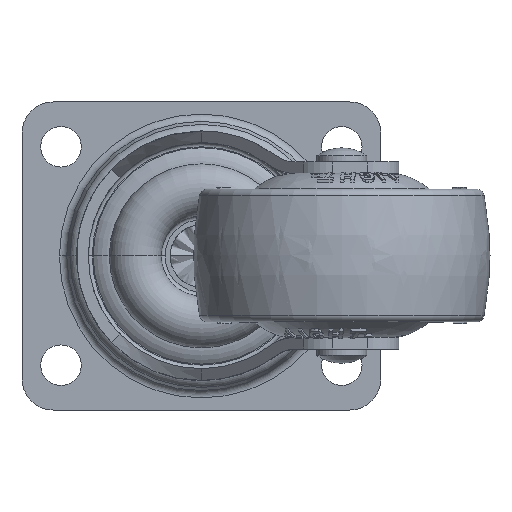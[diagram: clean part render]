
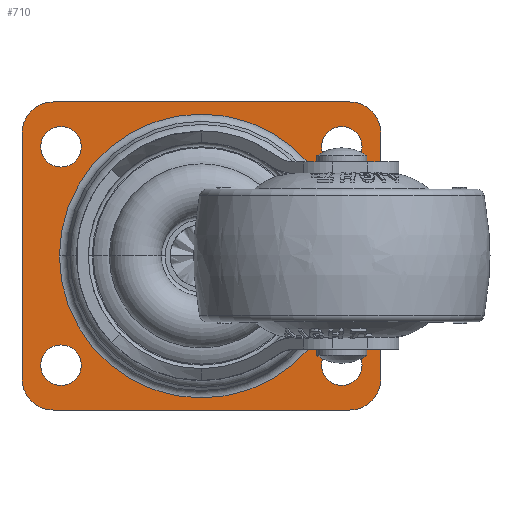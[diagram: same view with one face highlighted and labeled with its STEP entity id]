
A CAD part, top view. The second image highlights one B-rep face of the part: STEP entity #710.
In plain terms, the highlighted planar face has unit normal (0, 0, 1).
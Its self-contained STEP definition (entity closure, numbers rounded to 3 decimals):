
#1=CARTESIAN_POINT('',(18.,-14.,-2.8));
#2=DIRECTION('',(0.,0.,-1.));
#3=DIRECTION('',(1.,0.,0.));
#4=AXIS2_PLACEMENT_3D('',#1,#2,#3);
#6=CARTESIAN_POINT('',(18.,-14.,-2.8));
#7=DIRECTION('',(0.,0.,-1.));
#8=DIRECTION('',(-1.,0.,0.));
#9=AXIS2_PLACEMENT_3D('',#6,#7,#8);
#11=CARTESIAN_POINT('',(18.,14.,-2.8));
#12=DIRECTION('',(0.,0.,-1.));
#13=DIRECTION('',(-1.,0.,0.));
#14=AXIS2_PLACEMENT_3D('',#11,#12,#13);
#16=CARTESIAN_POINT('',(18.,14.,-2.8));
#17=DIRECTION('',(0.,0.,-1.));
#18=DIRECTION('',(1.,0.,0.));
#19=AXIS2_PLACEMENT_3D('',#16,#17,#18);
#21=CARTESIAN_POINT('',(-18.,-14.,-2.8));
#22=DIRECTION('',(0.,0.,-1.));
#23=DIRECTION('',(-1.,0.,0.));
#24=AXIS2_PLACEMENT_3D('',#21,#22,#23);
#26=CARTESIAN_POINT('',(-18.,-14.,-2.8));
#27=DIRECTION('',(0.,0.,-1.));
#28=DIRECTION('',(1.,0.,0.));
#29=AXIS2_PLACEMENT_3D('',#26,#27,#28);
#31=CARTESIAN_POINT('',(-18.,14.,-2.8));
#32=DIRECTION('',(0.,0.,-1.));
#33=DIRECTION('',(1.,0.,0.));
#34=AXIS2_PLACEMENT_3D('',#31,#32,#33);
#36=CARTESIAN_POINT('',(-18.,14.,-2.8));
#37=DIRECTION('',(0.,0.,-1.));
#38=DIRECTION('',(-1.,0.,0.));
#39=AXIS2_PLACEMENT_3D('',#36,#37,#38);
#41=CARTESIAN_POINT('',(-19.,15.75,-2.8));
#42=DIRECTION('',(0.,0.,1.));
#43=DIRECTION('',(0.,1.,0.));
#44=AXIS2_PLACEMENT_3D('',#41,#42,#43);
#46=DIRECTION('',(-1.,0.,0.));
#47=VECTOR('',#46,38.);
#48=CARTESIAN_POINT('',(19.,19.75,-2.8));
#49=LINE('',#48,#47);
#50=CARTESIAN_POINT('',(19.,15.75,-2.8));
#51=DIRECTION('',(0.,0.,1.));
#52=DIRECTION('',(1.,0.,0.));
#53=AXIS2_PLACEMENT_3D('',#50,#51,#52);
#55=DIRECTION('',(0.,1.,0.));
#56=VECTOR('',#55,31.5);
#57=CARTESIAN_POINT('',(23.,-15.75,-2.8));
#58=LINE('',#57,#56);
#59=CARTESIAN_POINT('',(19.,-15.75,-2.8));
#60=DIRECTION('',(0.,0.,1.));
#61=DIRECTION('',(0.,-1.,0.));
#62=AXIS2_PLACEMENT_3D('',#59,#60,#61);
#64=DIRECTION('',(1.,0.,0.));
#65=VECTOR('',#64,38.);
#66=CARTESIAN_POINT('',(-19.,-19.75,-2.8));
#67=LINE('',#66,#65);
#68=CARTESIAN_POINT('',(-19.,-15.75,-2.8));
#69=DIRECTION('',(0.,0.,1.));
#70=DIRECTION('',(-1.,0.,0.));
#71=AXIS2_PLACEMENT_3D('',#68,#69,#70);
#73=DIRECTION('',(0.,-1.,0.));
#74=VECTOR('',#73,31.5);
#75=CARTESIAN_POINT('',(-23.,15.75,-2.8));
#76=LINE('',#75,#74);
#77=CARTESIAN_POINT('',(0.,0.,-2.8));
#78=DIRECTION('',(0.,0.,-1.));
#79=DIRECTION('',(-1.,0.,0.));
#80=AXIS2_PLACEMENT_3D('',#77,#78,#79);
#82=CARTESIAN_POINT('',(0.,0.,-2.8));
#83=DIRECTION('',(0.,0.,-1.));
#84=DIRECTION('',(1.,0.,0.));
#85=AXIS2_PLACEMENT_3D('',#82,#83,#84);
#569=CARTESIAN_POINT('',(20.6,-14.,-2.8));
#570=CARTESIAN_POINT('',(15.4,-14.,-2.8));
#571=VERTEX_POINT('',#569);
#572=VERTEX_POINT('',#570);
#573=CARTESIAN_POINT('',(15.4,14.,-2.8));
#574=CARTESIAN_POINT('',(20.6,14.,-2.8));
#575=VERTEX_POINT('',#573);
#576=VERTEX_POINT('',#574);
#577=CARTESIAN_POINT('',(-20.6,-14.,-2.8));
#578=CARTESIAN_POINT('',(-15.4,-14.,-2.8));
#579=VERTEX_POINT('',#577);
#580=VERTEX_POINT('',#578);
#581=CARTESIAN_POINT('',(-15.4,14.,-2.8));
#582=CARTESIAN_POINT('',(-20.6,14.,-2.8));
#583=VERTEX_POINT('',#581);
#584=VERTEX_POINT('',#582);
#621=CARTESIAN_POINT('',(-19.,19.75,-2.8));
#622=VERTEX_POINT('',#621);
#623=CARTESIAN_POINT('',(-23.,15.75,-2.8));
#624=VERTEX_POINT('',#623);
#629=CARTESIAN_POINT('',(23.,15.75,-2.8));
#630=VERTEX_POINT('',#629);
#631=CARTESIAN_POINT('',(19.,19.75,-2.8));
#632=VERTEX_POINT('',#631);
#637=CARTESIAN_POINT('',(19.,-19.75,-2.8));
#638=VERTEX_POINT('',#637);
#639=CARTESIAN_POINT('',(23.,-15.75,-2.8));
#640=VERTEX_POINT('',#639);
#645=CARTESIAN_POINT('',(-23.,-15.75,-2.8));
#646=VERTEX_POINT('',#645);
#647=CARTESIAN_POINT('',(-19.,-19.75,-2.8));
#648=VERTEX_POINT('',#647);
#653=CARTESIAN_POINT('',(-18.2,0.,-2.8));
#654=CARTESIAN_POINT('',(18.2,0.,-2.8));
#655=VERTEX_POINT('',#653);
#656=VERTEX_POINT('',#654);
#657=CARTESIAN_POINT('',(0.,0.,-2.8));
#658=DIRECTION('',(0.,0.,1.));
#659=DIRECTION('',(-1.,0.,0.));
#660=AXIS2_PLACEMENT_3D('',#657,#658,#659);
#661=PLANE('',#660);
#663=ORIENTED_EDGE('',*,*,#662,.F.);
#665=ORIENTED_EDGE('',*,*,#664,.F.);
#667=ORIENTED_EDGE('',*,*,#666,.F.);
#669=ORIENTED_EDGE('',*,*,#668,.F.);
#671=ORIENTED_EDGE('',*,*,#670,.F.);
#673=ORIENTED_EDGE('',*,*,#672,.F.);
#675=ORIENTED_EDGE('',*,*,#674,.F.);
#677=ORIENTED_EDGE('',*,*,#676,.F.);
#678=EDGE_LOOP('',(#663,#665,#667,#669,#671,#673,#675,#677));
#679=FACE_OUTER_BOUND('',#678,.F.);
#681=ORIENTED_EDGE('',*,*,#680,.F.);
#683=ORIENTED_EDGE('',*,*,#682,.F.);
#684=EDGE_LOOP('',(#681,#683));
#685=FACE_BOUND('',#684,.F.);
#687=ORIENTED_EDGE('',*,*,#686,.F.);
#689=ORIENTED_EDGE('',*,*,#688,.F.);
#690=EDGE_LOOP('',(#687,#689));
#691=FACE_BOUND('',#690,.F.);
#693=ORIENTED_EDGE('',*,*,#692,.F.);
#695=ORIENTED_EDGE('',*,*,#694,.F.);
#696=EDGE_LOOP('',(#693,#695));
#697=FACE_BOUND('',#696,.F.);
#699=ORIENTED_EDGE('',*,*,#698,.F.);
#701=ORIENTED_EDGE('',*,*,#700,.F.);
#702=EDGE_LOOP('',(#699,#701));
#703=FACE_BOUND('',#702,.F.);
#705=ORIENTED_EDGE('',*,*,#704,.F.);
#707=ORIENTED_EDGE('',*,*,#706,.F.);
#708=EDGE_LOOP('',(#705,#707));
#709=FACE_BOUND('',#708,.F.);
#5=CIRCLE('',#4,2.6);
#10=CIRCLE('',#9,2.6);
#15=CIRCLE('',#14,2.6);
#20=CIRCLE('',#19,2.6);
#25=CIRCLE('',#24,2.6);
#30=CIRCLE('',#29,2.6);
#35=CIRCLE('',#34,2.6);
#40=CIRCLE('',#39,2.6);
#45=CIRCLE('',#44,4.);
#54=CIRCLE('',#53,4.);
#63=CIRCLE('',#62,4.);
#72=CIRCLE('',#71,4.);
#81=CIRCLE('',#80,18.2);
#86=CIRCLE('',#85,18.2);
#662=EDGE_CURVE('',#622,#624,#45,.T.);
#664=EDGE_CURVE('',#632,#622,#49,.T.);
#666=EDGE_CURVE('',#630,#632,#54,.T.);
#668=EDGE_CURVE('',#640,#630,#58,.T.);
#670=EDGE_CURVE('',#638,#640,#63,.T.);
#672=EDGE_CURVE('',#648,#638,#67,.T.);
#674=EDGE_CURVE('',#646,#648,#72,.T.);
#676=EDGE_CURVE('',#624,#646,#76,.T.);
#680=EDGE_CURVE('',#575,#576,#15,.T.);
#682=EDGE_CURVE('',#576,#575,#20,.T.);
#686=EDGE_CURVE('',#579,#580,#25,.T.);
#688=EDGE_CURVE('',#580,#579,#30,.T.);
#692=EDGE_CURVE('',#583,#584,#35,.T.);
#694=EDGE_CURVE('',#584,#583,#40,.T.);
#698=EDGE_CURVE('',#571,#572,#5,.T.);
#700=EDGE_CURVE('',#572,#571,#10,.T.);
#704=EDGE_CURVE('',#655,#656,#81,.T.);
#706=EDGE_CURVE('',#656,#655,#86,.T.);
#710=ADVANCED_FACE('',(#679,#685,#691,#697,#703,#709),#661,.T.);
